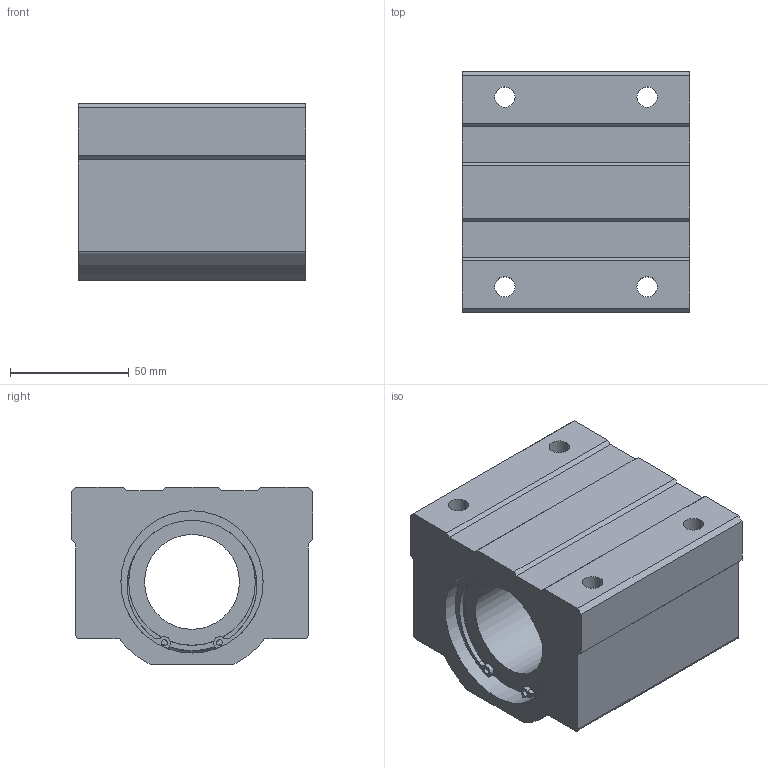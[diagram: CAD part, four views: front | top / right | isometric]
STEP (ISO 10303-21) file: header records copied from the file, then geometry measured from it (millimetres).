
FILE_DESCRIPTION((''),'2;1');
FILE_NAME('D:\製品 (図面)\カタログ用3D\リニアベアリング関連(改)\STEP形式\LH\LH40.stp','2010-01-25T10:17:36',('Tsuchiya'),(''),'Autodesk Inventor 10','Autodesk Inventor 10','');
FILE_SCHEMA(('AUTOMOTIVE_DESIGN { 1 0 10303 214 1 1 1 1 }'));
Length unit declared in the file: millimetre
Products named in the file (1): LH40
Bounding box: 96 x 102 x 75 mm (x, y, z)
Volume: 498116.3 mm3; surface area: 67731.1 mm2
Topology: 1 solids, 3 shells, 85 faces, 235 edges, 150 vertices
Faces by surface type: plane 45, cylinder 20, bspline 18, torus 2
Full cylindrical faces by diameter (mm): 2.5 x2, 40 x1, 53.4 x2, 57 x2, 60 x4
Entity records: 2680 total; most frequent: CARTESIAN_POINT 622, DIRECTION 436, ORIENTED_EDGE 392, EDGE_CURVE 196, AXIS2_PLACEMENT_3D 172, VERTEX_POINT 132, EDGE_LOOP 126, CIRCLE 104
